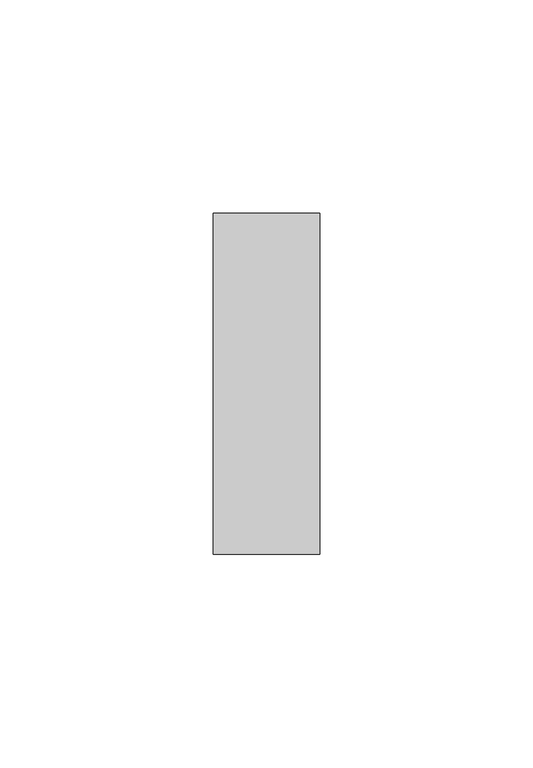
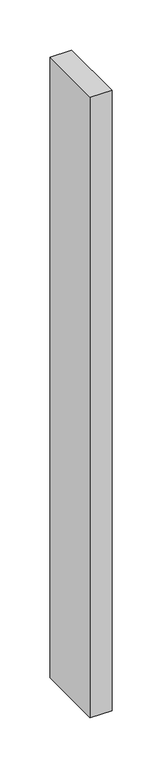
"""IFC4 building model written with IfcOpenShell, lengths in millimetres: member geometry, Obdélníková příčel : VERTI ELEMENT - horizontální."""

from ifc_helpers import new_model, si_unit, frame, origin, place, context, project, spatial, polyline, outline, extrude, source, transform, mapped, element, save


def member_b6bbf1a9(model_context):
    return source(origin(), model_context, "Body", "SweptSolid", [
        extrude(outline(polyline([(12.5, 40.0), (12.5, -40.0), (-12.5, -40.0), (-12.5, 40.0), (12.5, 40.0)])), frame((0.0, 0.0, -755.0), z_axis=(0.0, 0.0, 1.0), x_axis=(1.0, 0.0, 0.0)), (0.0, 0.0, 1.0), 755.0),
    ])


if __name__ == "__main__":
    model = new_model("IFC4")
    model_context = context("Model", 3, world=origin())
    ifc_project = project(units=[si_unit("LENGTHUNIT", "METRE", prefix="MILLI")], contexts=[model_context])
    site = spatial("IfcSite", under=ifc_project)
    building = spatial("IfcBuilding", under=site)
    placement = place(None, origin())
    member_shape = member_b6bbf1a9(model_context)
    element("IfcMember", 1, ObjectType="Obdélníková příčel : VERTI ELEMENT - horizontální", at=placement, inside=building, context=model_context, shape_type="MappedRepresentation", body=[
        mapped(member_shape, transform((0.0, 0.0, 0.0), x_axis=(1.0, 0.0, 0.0), y_axis=(0.0, 1.0, 0.0), z_axis=(0.0, 0.0, 1.0))),
    ])
    save(model, "model.ifc")
